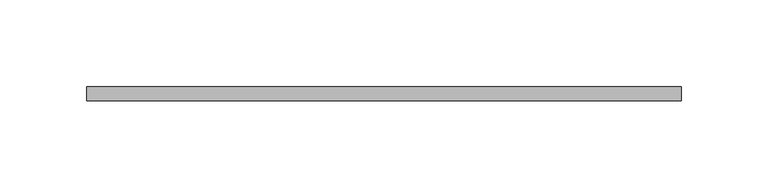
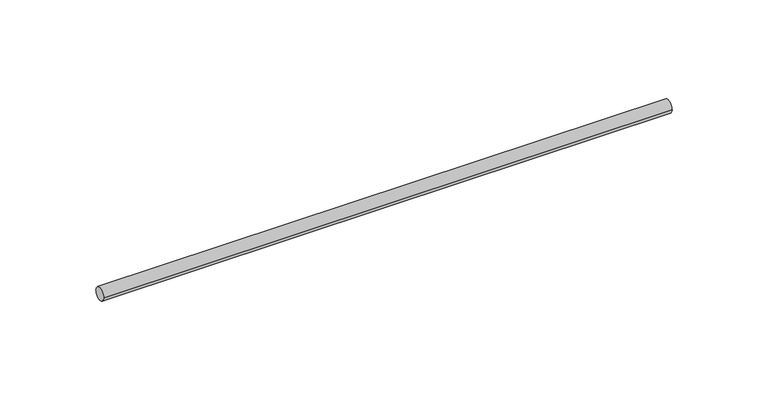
"""IFC4 building model written with IfcOpenShell, lengths in millimetres: valve geometry, Superfix Threaded Rod (used for clamps) : Threaded Rod  Extra  - 1000 mm (used for clamps)."""

import ifcopenshell
import ifcopenshell.guid

model = None  # the IFC model being written
_history = None  # IfcOwnerHistory: only IFC2X3 demands one
_inside = {}  # id of a spatial element -> (the spatial element, [elements in it])
_under = {}  # id of a project, library or spatial element -> (it, [spatial elements below it])
_declared = {}  # id of a project -> (the project, [libraries it declares])
_typed = {}  # id of a type object -> (the type object, [elements of that type])
_made_of = {}  # id of a material, layer set ... -> (it, [elements and type objects made of it])


def new_model(schema):
    """Start an empty IFC model of exactly this schema.

    Asked for "IFC4X3", IfcOpenShell would pick the latest addendum, in which some entities
    have other attributes; the version numbers below select the first issue.
    IFC2X3 requires an IfcOwnerHistory on every rooted entity: one is made here for all.
    """
    global model, _history
    if schema == "IFC4X3":
        model = ifcopenshell.file(schema_version=(4, 3, 0, 0))
    else:
        model = ifcopenshell.file(schema=schema)
    _inside.clear()
    _under.clear()
    _declared.clear()
    _typed.clear()
    _made_of.clear()
    _history = None
    if model.schema == "IFC2X3":
        org = make("IfcOrganization", Name="unknown")
        user = make(
            "IfcPersonAndOrganization",
            ThePerson=make("IfcPerson", FamilyName="unknown"),
            TheOrganization=org,
        )
        app = make(
            "IfcApplication",
            ApplicationDeveloper=org,
            Version="unknown",
            ApplicationFullName="unknown",
            ApplicationIdentifier="unknown",
        )
        _history = make(
            "IfcOwnerHistory",
            OwningUser=user,
            OwningApplication=app,
            ChangeAction="ADDED",
            CreationDate=0,
        )
    return model


def make(cls, **values):
    """One entity of the class cls with the attributes given. An attribute that is None is left unset."""
    return model.create_entity(
        cls, **{name: value for name, value in values.items() if value is not None}
    )


def rooted(cls, **values):
    """An entity with a GlobalId (a new one), such as an element, a storey or a relation."""
    return make(cls, GlobalId=ifcopenshell.guid.new(), OwnerHistory=_history, **values)


def si_unit(unit_type, name, prefix=None):
    """IfcSIUnit, for example si_unit("LENGTHUNIT", "METRE", prefix="MILLI")."""
    return make("IfcSIUnit", UnitType=unit_type, Prefix=prefix, Name=name)


def assignment(units):
    """IfcUnitAssignment: the units of a project."""
    return None if units is None else make("IfcUnitAssignment", Units=units)


def point(xyz):
    """IfcCartesianPoint."""
    return None if xyz is None else make("IfcCartesianPoint", Coordinates=xyz)


def direction(xyz):
    """IfcDirection."""
    return None if xyz is None else make("IfcDirection", DirectionRatios=xyz)


def frame(location, z_axis=None, x_axis=None):
    """IfcAxis2Placement3D, a coordinate frame: its origin and axes. An axis left out is left unset."""
    return make(
        "IfcAxis2Placement3D",
        Location=point(location),
        Axis=direction(z_axis),
        RefDirection=direction(x_axis),
    )


def frame_2d(location, x_axis=None):
    """IfcAxis2Placement2D, a coordinate frame in the plane: its origin and x axis."""
    return make(
        "IfcAxis2Placement2D", Location=point(location), RefDirection=direction(x_axis)
    )


def origin():
    """The frame at (0, 0, 0) with its axes left unset."""
    return frame((0.0, 0.0, 0.0))


def origin_2d():
    """The frame at (0, 0) in the plane with its x axis left unset."""
    return frame_2d((0.0, 0.0))


def place(relative_to, where):
    """IfcLocalPlacement: puts the frame where relative to a parent placement (None: the world)."""
    return make(
        "IfcLocalPlacement", PlacementRelTo=relative_to, RelativePlacement=where
    )


def context(
    kind, dimensions, precision=None, world=None, true_north=None, identifier=None
):
    """IfcGeometricRepresentationContext, for example the 3D "Model" context."""
    return make(
        "IfcGeometricRepresentationContext",
        ContextIdentifier=identifier,
        ContextType=kind,
        CoordinateSpaceDimension=dimensions,
        Precision=precision,
        WorldCoordinateSystem=world,
        TrueNorth=true_north,
    )


def project(units=None, contexts=None):
    """IfcProject with its units and contexts."""
    return rooted(
        "IfcProject",
        Name="project",
        RepresentationContexts=contexts,
        UnitsInContext=assignment(units),
    )


def spatial(cls, under=None, at=None, **own):
    """A site, building, storey or space (cls), placed at a placement, below another one or the project."""
    s = rooted(cls, ObjectPlacement=at, **own)
    if under is not None:
        _under.setdefault(under.id(), (under, []))[1].append(s)
    return s


def circle_curve(where, radius):
    """IfcCircle in the frame where."""
    return make("IfcCircle", Position=where, Radius=radius)


def trimmed(basis, trim1, trim2, sense, master):
    """IfcTrimmedCurve: the piece of a basis curve between two trims."""
    return make(
        "IfcTrimmedCurve",
        BasisCurve=basis,
        Trim1=trim1,
        Trim2=trim2,
        SenseAgreement=sense,
        MasterRepresentation=master,
    )


def segment(curve, same_sense, transition):
    """IfcCompositeCurveSegment."""
    return make(
        "IfcCompositeCurveSegment",
        Transition=transition,
        SameSense=same_sense,
        ParentCurve=curve,
    )


def composite_curve(segments, self_intersect=None):
    """IfcCompositeCurve: segments joined end to end."""
    return make("IfcCompositeCurve", Segments=segments, SelfIntersect=self_intersect)


def outline(outer, holes=None, kind="AREA"):
    """IfcArbitraryClosedProfileDef: a profile drawn as a closed curve; with holes, ...WithVoids."""
    if holes is None:
        return make("IfcArbitraryClosedProfileDef", ProfileType=kind, OuterCurve=outer)
    return make(
        "IfcArbitraryProfileDefWithVoids",
        ProfileType=kind,
        OuterCurve=outer,
        InnerCurves=holes,
    )


def extrude(swept, where, along, depth):
    """IfcExtrudedAreaSolid: the profile swept, set in the frame where, extruded along a direction by depth."""
    return make(
        "IfcExtrudedAreaSolid",
        SweptArea=swept,
        Position=where,
        ExtrudedDirection=direction(along),
        Depth=depth,
    )


def shape(context_of_items, identifier, shape_type, items):
    """IfcShapeRepresentation: the items that make up one representation, for example the "Body"."""
    return make(
        "IfcShapeRepresentation",
        ContextOfItems=context_of_items,
        RepresentationIdentifier=identifier,
        RepresentationType=shape_type,
        Items=items,
    )


def source(mapping_origin, context_of_items, identifier, shape_type, items):
    """IfcRepresentationMap: a shape defined once, which mapped items show again and again."""
    return make(
        "IfcRepresentationMap",
        MappingOrigin=mapping_origin,
        MappedRepresentation=shape(context_of_items, identifier, shape_type, items),
    )


def transform(
    local_origin,
    x_axis=None,
    y_axis=None,
    z_axis=None,
    scale=None,
    scale2=None,
    scale3=None,
    uniform=True,
):
    """IfcCartesianTransformationOperator3D, or its non-uniform kind. x_axis, y_axis, z_axis: its Axis1, 2, 3."""
    if uniform:
        return make(
            "IfcCartesianTransformationOperator3D",
            Axis1=direction(x_axis),
            Axis2=direction(y_axis),
            LocalOrigin=point(local_origin),
            Scale=scale,
            Axis3=direction(z_axis),
        )
    return make(
        "IfcCartesianTransformationOperator3DnonUniform",
        Axis1=direction(x_axis),
        Axis2=direction(y_axis),
        LocalOrigin=point(local_origin),
        Scale=scale,
        Axis3=direction(z_axis),
        Scale2=scale2,
        Scale3=scale3,
    )


def mapped(mapping_source, mapping_target):
    """IfcMappedItem: shows the shape of a source again, moved by a transform."""
    return make(
        "IfcMappedItem", MappingSource=mapping_source, MappingTarget=mapping_target
    )


def made_of(thing, what):
    """Note that an element or type object is made of a material, layer set ...; save() writes the relation."""
    if what is not None:
        _made_of.setdefault(what.id(), (what, []))[1].append(thing)
    return thing


def element(
    cls,
    number,
    at=None,
    inside=None,
    cuts=None,
    type_object=None,
    material=None,
    context=None,
    identifier="Body",
    shape_type=None,
    held_by="IfcProductDefinitionShape",
    body=None,
    shapes=None,
    **own,
):
    """One element of the class cls, such as IfcWall. Its Tag is "e" and its number.

    at: its placement. inside: the storey or other place that contains it. cuts: it is an
    opening in that element (IfcRelVoidsElement). A single representation is given by context,
    identifier, shape_type and body (its items); several are given by shapes. held_by: the class
    of the entity that holds the representations. save() writes the other relations.
    """
    e = rooted(cls, Tag="e%d" % number, ObjectPlacement=at, **own)
    if body is not None:
        shapes = [shape(context, identifier, shape_type, body)]
    if shapes is not None:
        e.Representation = make(held_by, Representations=shapes)
    if inside is not None:
        _inside.setdefault(inside.id(), (inside, []))[1].append(e)
    if cuts is not None:
        rooted(
            "IfcRelVoidsElement", RelatingBuildingElement=cuts, RelatedOpeningElement=e
        )
    if type_object is not None:
        _typed.setdefault(type_object.id(), (type_object, []))[1].append(e)
    return made_of(e, material)


def aggregate(whole, parts):
    """IfcRelAggregates: a whole, such as a stair, and the parts it consists of."""
    return rooted("IfcRelAggregates", RelatingObject=whole, RelatedObjects=parts)


def save(model, path):
    """Write the relations noted so far, then the file.

    IfcRelAggregates (storeys below a building ...), IfcRelContainedInSpatialStructure (elements
    in a storey), IfcRelDefinesByType, IfcRelAssociatesMaterial and IfcRelDeclares: one each for
    every whole, place, type object, material and project.
    """
    for whole, parts in _under.values():
        aggregate(whole, parts)
    for where, things in _inside.values():
        rooted(
            "IfcRelContainedInSpatialStructure",
            RelatedElements=things,
            RelatingStructure=where,
        )
    for kind, things in _typed.values():
        rooted("IfcRelDefinesByType", RelatedObjects=things, RelatingType=kind)
    for what, things in _made_of.values():
        rooted("IfcRelAssociatesMaterial", RelatedObjects=things, RelatingMaterial=what)
    for by, libraries in _declared.values():
        rooted("IfcRelDeclares", RelatingContext=by, RelatedDefinitions=libraries)
    model.write(path)


def valve_9da2c18c(model_context):
    return source(origin(), model_context, "Body", "SweptSolid", [
        extrude(outline(composite_curve([segment(trimmed(circle_curve(origin_2d(), 4.0), [point((-4.0, 0.0))], [point((4.0, 0.0))], False, "CARTESIAN"), True, "CONTINUOUS"), segment(trimmed(circle_curve(origin_2d(), 4.0), [point((4.0, 0.0))], [point((-4.0, 0.0))], False, "CARTESIAN"), True, "CONTINUOUS")], self_intersect=False)), frame((-10.0, 0.0, 0.0), z_axis=(1.0, 0.0, 0.0), x_axis=(0.0, 1.0, 0.0)), (0.0, 0.0, 1.0), 342.0),
    ])


if __name__ == "__main__":
    model = new_model("IFC4")
    model_context = context("Model", 3, world=origin())
    ifc_project = project(units=[si_unit("LENGTHUNIT", "METRE", prefix="MILLI")], contexts=[model_context])
    site = spatial("IfcSite", under=ifc_project)
    building = spatial("IfcBuilding", under=site)
    placement = place(None, origin())
    valve_shape = valve_9da2c18c(model_context)
    element("IfcValve", 1, ObjectType="Superfix Threaded Rod (used for clamps) : Threaded Rod  Extra  - 1000 mm (used for clamps)", at=placement, inside=building, context=model_context, shape_type="MappedRepresentation", body=[
        mapped(valve_shape, transform((0.0, 0.0, 0.0), x_axis=(1.0, 0.0, 0.0), y_axis=(0.0, 1.0, 0.0), z_axis=(0.0, 0.0, 1.0))),
    ])
    save(model, "model.ifc")
